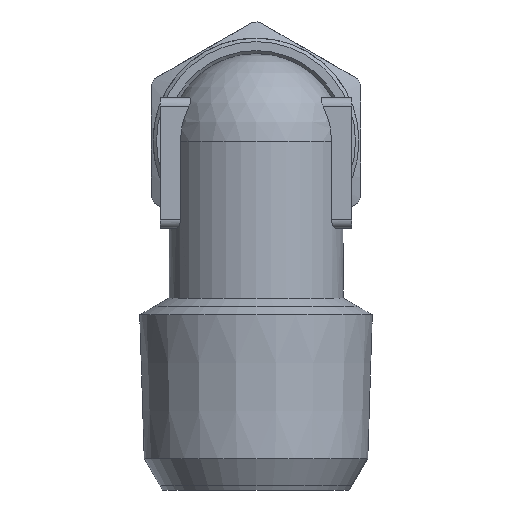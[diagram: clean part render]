
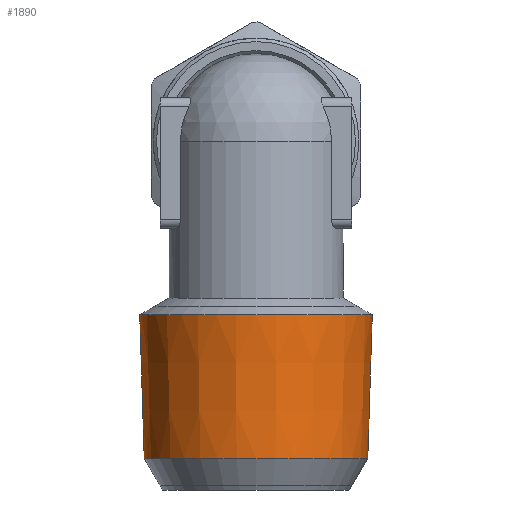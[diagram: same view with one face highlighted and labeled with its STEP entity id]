
A CAD part, left-side view. The second image highlights one B-rep face of the part: STEP entity #1890.
In plain terms, the highlighted conical face has half-angle 1.79 degrees and reference radius 6.664 mm.
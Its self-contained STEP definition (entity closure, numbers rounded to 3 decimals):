
#1890=ADVANCED_FACE('', (#1900,#1910), #1920, .T.);
#7080=AXIS2_PLACEMENT_3D('Ax2Pl3d', #7090, #7100, #7110);
#7200=AXIS2_PLACEMENT_3D('Ax2Pl3d', #7210, #7220, #7230);
#7240=AXIS2_PLACEMENT_3D('Ax2Pl3d', #7250, #7260, #7270);
#7090=CARTESIAN_POINT('HicPkt', (8.247,9.848,
7.847));
#57970=CARTESIAN_POINT('', (8.247,3.184,7.847));
#7210=CARTESIAN_POINT('HicPkt', (8.247,9.848,
-0.393));
#57990=CARTESIAN_POINT('', (8.247,3.441,-0.393))
;
#7250=CARTESIAN_POINT('HicPkt', (8.247,9.848,
7.847));
#58970=CIRCLE('Circle', #7080, 6.664);
#58990=CIRCLE('Circle', #7200, 6.407);
#1920=CONICAL_SURFACE('Kegel', #7240, 6.664, 
0.031);
#7100=DIRECTION('Axis', (0.,0.,1.));
#7110=DIRECTION('RefDirection', (1.,0.,-0.));
#7220=DIRECTION('Axis', (0.,0.,-1.));
#7230=DIRECTION('RefDirection', (-1.,-0.,0.));
#7260=DIRECTION('Axis', (0.,0.,1.));
#7270=DIRECTION('RefDirection', (1.,0.,-0.));
#67080=EDGE_CURVE('', #67090, #67090, #58970, .T.);
#67120=EDGE_CURVE('', #67130, #67130, #58990, .T.);
#71130=EDGE_LOOP('Edge_loop', (#71140));
#71150=EDGE_LOOP('Edge_loop', (#71160));
#1910=FACE_BOUND('', #71150, .T.);
#1900=FACE_OUTER_BOUND('Face_outer_bound', #71130, .T.);
#71140=ORIENTED_EDGE('', *, *, #67080, .F.);
#71160=ORIENTED_EDGE('', *, *, #67120, .F.);
#67090=VERTEX_POINT('', #57970);
#67130=VERTEX_POINT('', #57990);
